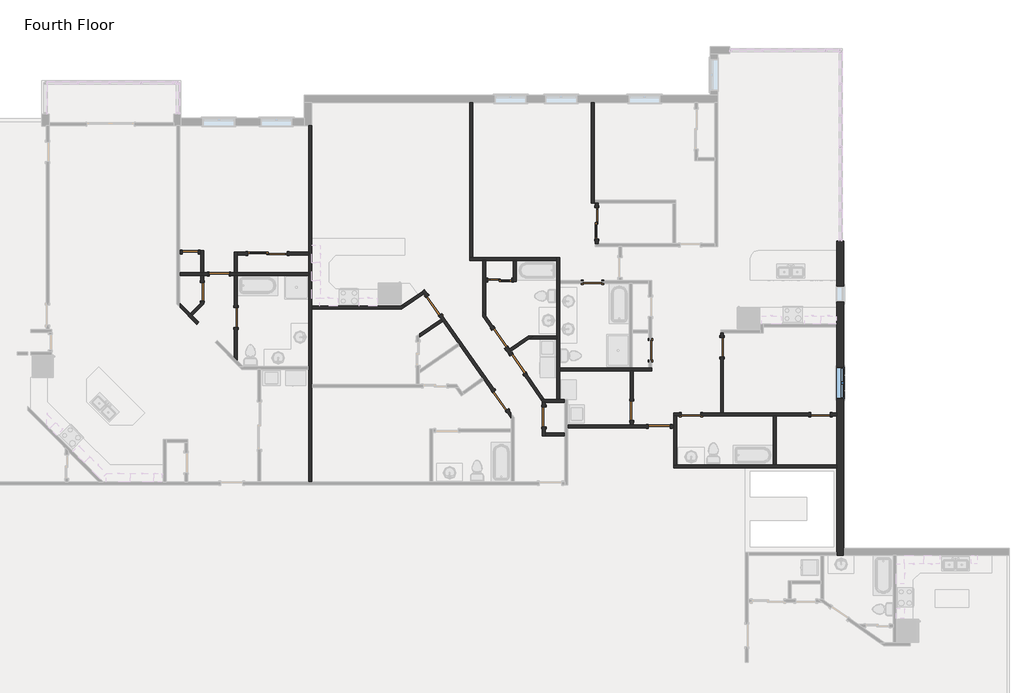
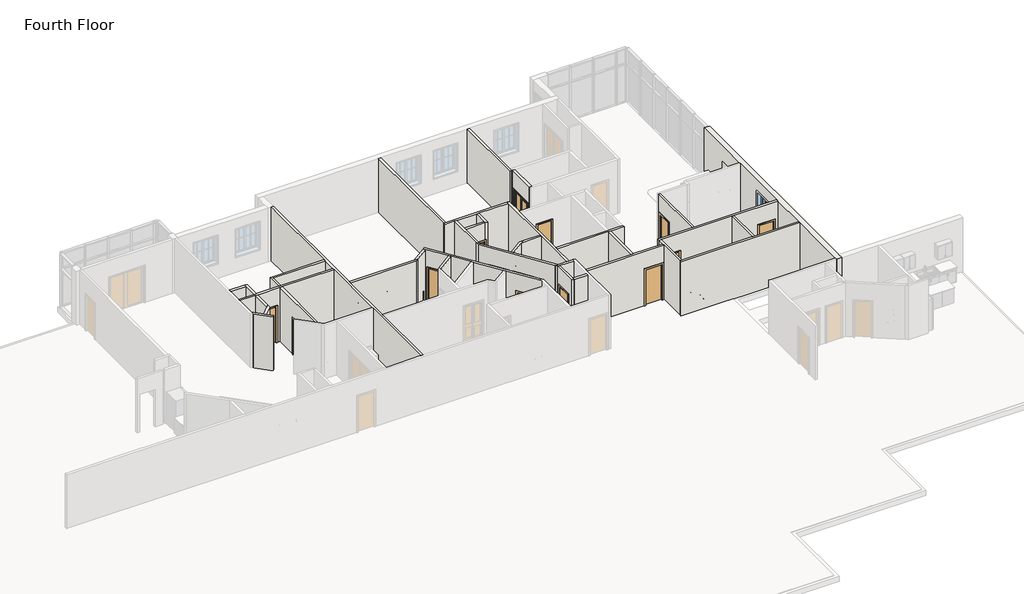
# One storey, part 11 of 17: 37 walls, 19 doors, 1 window.
"""IFC4 building model written with IfcOpenShell, lengths in millimetres."""

from ifc_helpers import new_model, si_unit, frame, origin, place, context, project, spatial, polyline, outline, extrude, faceted_brep, transform, mapped, element, save
from components import door_e2285e44, door_f2586ccf, door_2d0eeab4, door_d8f5dbb5, door_f2b275c1, door_825b8444, door_c29894e6, door_88c23cd7, door_900f836f, door_2e7ec8be, window_33528cc2

model = new_model("IFC4")

# Units and contexts
model_context = context("Model", 3, world=origin())
ifc_project = project(units=[si_unit("LENGTHUNIT", "METRE", prefix="MILLI")], contexts=[model_context])

# Site, building, storey
site = spatial("IfcSite", under=ifc_project)
building = spatial("IfcBuilding", under=site)
storey = spatial("IfcBuildingStorey", under=building, Name="Fourth Floor", Elevation=9144.0)

# Doors
placement = place(None, origin())
door_shape = door_e2285e44(model_context)
element("IfcDoor", 1, ObjectType="Single-Flush : 24\" x 80\"", at=placement, inside=storey, context=model_context, shape_type="MappedRepresentation", body=[
    mapped(door_shape, transform((32134.1490863, 11206.8738431, 9144.0), x_axis=(-1.0, 0.0, 0.0), y_axis=(0.0, -1.0, 0.0), z_axis=(0.0, 0.0, 1.0))),
])
door_2_shape = door_f2586ccf(model_context)
element("IfcDoor", 2, ObjectType="Single-Flush : 28\" x 80\"", at=placement, inside=storey, context=model_context, shape_type="MappedRepresentation", body=[
    mapped(door_2_shape, transform((32600.8503506, 9684.7566317, 9144.0), x_axis=(0.0, -1.0, 0.0), y_axis=(1.0, 0.0, 0.0), z_axis=(0.0, 0.0, 1.0))),
])
door_3_shape = door_2d0eeab4(model_context)
element("IfcDoor", 3, ObjectType="Single-Flush : 28\" x 80\"", at=placement, inside=storey, context=model_context, shape_type="MappedRepresentation", body=[
    mapped(door_3_shape, transform((47614.8260153, 10045.1667096, 9144.0), x_axis=(1.0, 0.0, 0.0), y_axis=(0.0, 1.0, 0.0), z_axis=(0.0, 0.0, 1.0))),
])
door_4_shape = door_d8f5dbb5(model_context)
element("IfcDoor", 4, ObjectType="Single-Flush : 30\" x 80\"", at=placement, inside=storey, context=model_context, shape_type="MappedRepresentation", body=[
    mapped(door_4_shape, transform((45750.4941402, 4857.5393477, 9144.0), x_axis=(0.0, 1.0, 0.0), y_axis=(-1.0, 0.0, 0.0), z_axis=(0.0, 0.0, 1.0))),
])
element("IfcDoor", 5, ObjectType="Single-Flush : 30\" x 80\"", at=placement, inside=storey, context=model_context, shape_type="MappedRepresentation", body=[
    mapped(door_4_shape, transform((51410.1982354, 4944.5386142, 9144.0), x_axis=(-1.0, 0.0, 0.0), y_axis=(0.0, -1.0, 0.0), z_axis=(0.0, 0.0, 1.0))),
])
element("IfcDoor", 6, ObjectType="Single-Flush : 30\" x 80\"", at=placement, inside=storey, context=model_context, shape_type="MappedRepresentation", body=[
    mapped(door_4_shape, transform((49850.4788879, 7420.455328, 9144.0), x_axis=(0.0, -1.0, 0.0), y_axis=(1.0, 0.0, 0.0), z_axis=(0.0, 0.0, 1.0))),
])
door_5_shape = door_f2b275c1(model_context)
element("IfcDoor", 7, ObjectType="Single-Flush : 30\" x 80\"", at=placement, inside=storey, context=model_context, shape_type="MappedRepresentation", body=[
    mapped(door_5_shape, transform((33248.5503506, 10357.9910099, 9144.0), x_axis=(-1.0, 0.0, 0.0), y_axis=(0.0, -1.0, 0.0), z_axis=(0.0, 0.0, 1.0))),
])
element("IfcDoor", 8, ObjectType="Single-Flush : 30\" x 80\"", at=placement, inside=storey, context=model_context, shape_type="MappedRepresentation", body=[
    mapped(door_5_shape, transform((33896.2503506, 8681.5910099, 9144.0), x_axis=(0.0, 1.0, 0.0), y_axis=(-1.0, 0.0, 0.0), z_axis=(0.0, 0.0, 1.0))),
])
element("IfcDoor", 9, ObjectType="Single-Flush : 30\" x 80\"", at=placement, inside=storey, context=model_context, shape_type="MappedRepresentation", body=[
    mapped(door_5_shape, transform((49133.9272963, 5096.9386142, 9144.0), x_axis=(0.0, -1.0, 0.0), y_axis=(1.0, 0.0, 0.0), z_axis=(0.0, 0.0, 1.0))),
])
element("IfcDoor", 10, ObjectType="Single-Flush : 30\" x 80\"", at=placement, inside=storey, context=model_context, shape_type="MappedRepresentation", body=[
    mapped(door_5_shape, transform((52607.3485135, 7538.9439464, 9144.0), x_axis=(0.0, 1.0, 0.0), y_axis=(-1.0, 0.0, 0.0), z_axis=(0.0, 0.0, 1.0))),
])
element("IfcDoor", 11, ObjectType="Single-Flush : 30\" x 80\"", at=placement, inside=storey, context=model_context, shape_type="MappedRepresentation", body=[
    mapped(door_5_shape, transform((56399.0962704, 4944.5386142, 9144.0), x_axis=(1.0, 0.0, 0.0), y_axis=(0.0, 1.0, 0.0), z_axis=(0.0, 0.0, 1.0))),
])
door_6_shape = door_825b8444(model_context)
element("IfcDoor", 12, ObjectType="Single-Flush : 34\" x 80\"", at=placement, inside=storey, context=model_context, shape_type="MappedRepresentation", body=[
    mapped(door_6_shape, transform((44075.379577, 5485.5706082, 9144.0), x_axis=(0.5735764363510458, -0.8191520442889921, 0.0), y_axis=(0.8191520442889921, 0.5735764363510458, 0.0), z_axis=(0.0, 0.0, 1.0))),
])
element("IfcDoor", 13, ObjectType="Single-Flush : 34\" x 80\"", at=placement, inside=storey, context=model_context, shape_type="MappedRepresentation", body=[
    mapped(door_6_shape, transform((44748.5781815, 6887.1795824, 9144.0), x_axis=(-0.5735764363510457, 0.819152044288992, 0.0), y_axis=(-0.819152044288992, -0.5735764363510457, 0.0), z_axis=(0.0, 0.0, 1.0))),
])
door_7_shape = door_c29894e6(model_context)
element("IfcDoor", 14, ObjectType="Single-Flush : 34\" x 80\"", at=placement, inside=storey, context=model_context, shape_type="MappedRepresentation", body=[
    mapped(door_7_shape, transform((41510.2711658, 9148.9250727, 9144.0), x_axis=(-0.5735764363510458, 0.8191520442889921, 0.0), y_axis=(-0.8191520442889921, -0.5735764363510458, 0.0), z_axis=(0.0, 0.0, 1.0))),
])
element("IfcDoor", 15, ObjectType="Single-Flush : 34\" x 80\"", at=placement, inside=storey, context=model_context, shape_type="MappedRepresentation", body=[
    mapped(door_7_shape, transform((44049.2737903, 7885.8897548, 9144.0), x_axis=(0.5735764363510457, -0.819152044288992, 0.0), y_axis=(0.819152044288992, 0.5735764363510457, 0.0), z_axis=(0.0, 0.0, 1.0))),
])
element("IfcDoor", 16, ObjectType="Single-Flush : 34\" x 80\"", at=placement, inside=storey, context=model_context, shape_type="MappedRepresentation", body=[
    mapped(door_7_shape, transform((50190.9982354, 4487.3386142, 9144.0), x_axis=(1.0, 0.0, 0.0), y_axis=(0.0, 1.0, 0.0), z_axis=(0.0, 0.0, 1.0))),
])
door_8_shape = door_88c23cd7(model_context)
element("IfcDoor", 17, ObjectType="Sliding-Closet : 36\" x 80\"", at=placement, inside=storey, context=model_context, shape_type="MappedRepresentation", body=[
    mapped(door_8_shape, transform((44050.8019535, 10258.3378349, 9144.0), x_axis=(-1.0, 0.0, 0.0), y_axis=(0.0, -1.0, 0.0), z_axis=(0.0, 0.0, 1.0))),
])
door_9_shape = door_900f836f(model_context)
element("IfcDoor", 18, ObjectType="Sliding-Closet : 48\" x 80\"", at=placement, inside=storey, context=model_context, shape_type="MappedRepresentation", body=[
    mapped(door_9_shape, transform((47915.2940143, 12314.1601128, 9144.0), x_axis=(0.0, 1.0, 0.0), y_axis=(-1.0, 0.0, 0.0), z_axis=(0.0, 0.0, 1.0))),
])
door_10_shape = door_2e7ec8be(model_context)
element("IfcDoor", 19, ObjectType="Sliding-Closet : 60\" x 80\"", at=placement, inside=storey, context=model_context, shape_type="MappedRepresentation", body=[
    mapped(door_10_shape, transform((35115.4503506, 11022.7238431, 9144.0), x_axis=(1.0, 0.0, 0.0), y_axis=(0.0, 1.0, 0.0), z_axis=(0.0, 0.0, 1.0))),
])

# Walls
element("IfcWall", 20, ObjectType="Exterior - Brick on Wood Stud", at=placement, inside=storey, context=model_context, shape_type="Brep", body=[
    faceted_brep([(57019.8087704, 11632.2044819, 9144.0), (57019.8087704, 8425.9167096, 9144.0), (57019.8087704, 8311.6167096, 9144.0), (57019.8087704, 5001.6886142, 9144.0), (57019.8087704, 4887.3886142, 9144.0), (57019.8087704, 3002.5544819, 9144.0), (57019.8087704, 2888.2544819, 9144.0), (57019.8087704, -370.8512558, 9144.0), (57019.8087704, -485.1512558, 9144.0), (57019.8087704, -485.1512558, 12192.0), (57019.8087704, -370.8512558, 12192.0), (57019.8087704, 2888.2544819, 12192.0), (57019.8087704, 3002.5544819, 12192.0), (57019.8087704, 4887.3886142, 12192.0), (57019.8087704, 5001.6886142, 12192.0), (57019.8087704, 8311.6167096, 12192.0), (57019.8087704, 8425.9167096, 12192.0), (57019.8087704, 11632.2044819, 12192.0), (57019.8087704, 5554.1386142, 11582.4), (57019.8087704, 5554.1386142, 10058.4), (57019.8087704, 6773.3386142, 10058.4), (57019.8087704, 6773.3386142, 11582.4), (57019.8087704, 9283.1667096, 11277.6), (57019.8087704, 9283.1667096, 10058.4), (57019.8087704, 9892.7667096, 10058.4), (57019.8087704, 9892.7667096, 11277.6), (57302.3837704, 11632.2044819, 9144.0), (57302.3837704, 11632.2044819, 12192.0), (57302.3837704, -202.5762558, 12192.0), (57302.3837704, -485.1512558, 12192.0), (57302.3837704, -485.1512558, 9144.0), (57302.3837704, -202.5762558, 9144.0), (57302.3837704, 5554.1386142, 11582.4), (57302.3837704, 6773.3386142, 11582.4), (57302.3837704, 6773.3386142, 10058.4), (57302.3837704, 5554.1386142, 10058.4), (57302.3837704, 9283.1667096, 11277.6), (57302.3837704, 9892.7667096, 11277.6), (57302.3837704, 9892.7667096, 10058.4), (57302.3837704, 9283.1667096, 10058.4)], [[[0, 1, 2, 3, 4, 5, 6, 7, 8, 9, 10, 11, 12, 13, 14, 15, 16, 17], [18, 19, 20, 21], [22, 23, 24, 25]], [[26, 27, 28, 29, 30, 31], [32, 33, 34, 35], [36, 37, 38, 39]], [[8, 7, 6, 5, 4, 3, 2, 1, 0, 26, 31, 30]], [[17, 16, 15, 14, 13, 12, 11, 10, 9, 29, 28, 27]], [[0, 17, 27, 26]], [[19, 18, 32, 35]], [[20, 19, 35, 34]], [[21, 20, 34, 33]], [[18, 21, 33, 32]], [[23, 22, 36, 39]], [[24, 23, 39, 38]], [[25, 24, 38, 37]], [[22, 25, 37, 36]], [[9, 8, 30, 29]]]),
])
element("IfcWall", 21, ObjectType="Interior - 4 1/2\" Partition", at=placement, inside=storey, context=model_context, shape_type="Brep", body=[
    faceted_brep([(57019.8087704, 3002.5544819, 9144.0), (54695.8146836, 3002.5544819, 9144.0), (54581.5146836, 3002.5544819, 9144.0), (50857.7482354, 3002.5544819, 9144.0), (50743.4482354, 3002.5544819, 9144.0), (50743.4482354, 3002.5544819, 12192.0), (50857.7482354, 3002.5544819, 12192.0), (54581.5146836, 3002.5544819, 12192.0), (54695.8146836, 3002.5544819, 12192.0), (57019.8087704, 3002.5544819, 12192.0), (57019.8087704, 2888.2544819, 9144.0), (57019.8087704, 2888.2544819, 12192.0), (50743.4482354, 2888.2544819, 12192.0), (50743.4482354, 2888.2544819, 9144.0)], [[[0, 1, 2, 3, 4, 5, 6, 7, 8, 9]], [[10, 11, 12, 13]], [[4, 3, 2, 1, 0, 10, 13]], [[9, 8, 7, 6, 5, 12, 11]], [[5, 4, 13, 12]], [[0, 9, 11, 10]]]),
])
element("IfcWall", 22, ObjectType="Interior - 4 1/2\" Partition", at=placement, inside=storey, context=model_context, shape_type="Brep", body=[
    faceted_brep([(50857.7482354, 3002.5544819, 9144.0), (50857.7482354, 4887.3886142, 9144.0), (50857.7482354, 4887.3886142, 12192.0), (50857.7482354, 3002.5544819, 12192.0), (50743.4482354, 3002.5544819, 9144.0), (50743.4482354, 3002.5544819, 12192.0), (50743.4482354, 4430.1886142, 12192.0), (50743.4482354, 4544.4886142, 12192.0), (50743.4482354, 4887.3886142, 12192.0), (50743.4482354, 4887.3886142, 9144.0), (50743.4482354, 4544.4886142, 9144.0), (50743.4482354, 4430.1886142, 9144.0)], [[[0, 1, 2, 3]], [[4, 5, 6, 7, 8, 9, 10, 11]], [[1, 0, 4, 11, 10, 9]], [[3, 2, 8, 7, 6, 5]], [[2, 1, 9, 8]], [[0, 3, 5, 4]]]),
])
element("IfcWall", 23, ObjectType="Interior - 4 1/2\" Partition", at=placement, inside=storey, context=model_context, shape_type="Brep", body=[
    faceted_brep([(50743.4482354, 4544.4886142, 9144.0), (50622.7982354, 4544.4886142, 9144.0), (50622.7982354, 4544.4886142, 11176.0), (49759.1982354, 4544.4886142, 11176.0), (49759.1982354, 4544.4886142, 9144.0), (49191.0772963, 4544.4886142, 9144.0), (49076.7772963, 4544.4886142, 9144.0), (46668.7626872, 4544.4886142, 9144.0), (46668.7626872, 4544.4886142, 12192.0), (49076.7772963, 4544.4886142, 12192.0), (49191.0772963, 4544.4886142, 12192.0), (50743.4482354, 4544.4886142, 12192.0), (50622.7982354, 4430.1886142, 11176.0), (50622.7982354, 4430.1886142, 9144.0), (50743.4482354, 4430.1886142, 9144.0), (50743.4482354, 4430.1886142, 12192.0), (46668.7626872, 4430.1886142, 12192.0), (46668.7626872, 4430.1886142, 9144.0), (49759.1982354, 4430.1886142, 9144.0), (49759.1982354, 4430.1886142, 11176.0)], [[[0, 1, 2, 3, 4, 5, 6, 7, 8, 9, 10, 11]], [[12, 13, 14, 15, 16, 17, 18, 19]], [[18, 17, 7, 6, 5, 4]], [[14, 13, 1, 0]], [[11, 10, 9, 8, 16, 15]], [[2, 1, 13, 12]], [[3, 2, 12, 19]], [[4, 3, 19, 18]], [[8, 7, 17, 16]], [[0, 11, 15, 14]]]),
])
element("IfcWall", 24, ObjectType="Interior - 4 1/2\" Partition", at=placement, inside=storey, context=model_context, shape_type="Brep", body=[
    faceted_brep([(46554.4626872, 5524.2893477, 9144.0), (46352.4352525, 5524.2893477, 9144.0), (46238.1352525, 5524.2893477, 9144.0), (45772.6514653, 5524.2893477, 9144.0), (45633.1169298, 5524.2893477, 9144.0), (45633.1169298, 5524.2893477, 12192.0), (45772.6514653, 5524.2893477, 12192.0), (46238.1352525, 5524.2893477, 12192.0), (46352.4352525, 5524.2893477, 12192.0), (46554.4626872, 5524.2893477, 12192.0), (46554.4626872, 5409.9893477, 9144.0), (46554.4626872, 5409.9893477, 12192.0), (45807.6441402, 5409.9893477, 12192.0), (45713.1506514, 5409.9893477, 12192.0), (45713.1506514, 5409.9893477, 9144.0), (45807.6441402, 5409.9893477, 9144.0), (45693.3441402, 5438.2759773, 9144.0), (45693.3441402, 5438.2759773, 12192.0)], [[[0, 1, 2, 3, 4, 5, 6, 7, 8, 9]], [[10, 11, 12, 13, 14, 15]], [[4, 3, 2, 1, 0, 10, 15, 14, 16]], [[9, 8, 7, 6, 5, 17, 13, 12, 11]], [[5, 4, 16, 14, 13, 17]], [[0, 9, 11, 10]]]),
])
element("IfcWall", 25, ObjectType="Interior - 4 1/2\" Partition", at=placement, inside=storey, context=model_context, shape_type="Brep", body=[
    faceted_brep([(46352.4352525, 5524.2893477, 9144.0), (46352.4352525, 6635.2167096, 9144.0), (46352.4352525, 6749.5167096, 9144.0), (46352.4352525, 9988.0167096, 9144.0), (46352.4352525, 10102.3167096, 9144.0), (46352.4352525, 11001.2878349, 9144.0), (46352.4352525, 11001.2878349, 12192.0), (46352.4352525, 10102.3167096, 12192.0), (46352.4352525, 9988.0167096, 12192.0), (46352.4352525, 6749.5167096, 12192.0), (46352.4352525, 6635.2167096, 12192.0), (46352.4352525, 5524.2893477, 12192.0), (46238.1352525, 5524.2893477, 9144.0), (46238.1352525, 5524.2893477, 12192.0), (46238.1352525, 7864.8634145, 12192.0), (46238.1352525, 7979.1634145, 12192.0), (46238.1352525, 10886.9878349, 12192.0), (46238.1352525, 11001.2878349, 12192.0), (46238.1352525, 11001.2878349, 9144.0), (46238.1352525, 10886.9878349, 9144.0), (46238.1352525, 7979.1634145, 9144.0), (46238.1352525, 7864.8634145, 9144.0)], [[[0, 1, 2, 3, 4, 5, 6, 7, 8, 9, 10, 11]], [[12, 13, 14, 15, 16, 17, 18, 19, 20, 21]], [[5, 4, 3, 2, 1, 0, 12, 21, 20, 19, 18]], [[11, 10, 9, 8, 7, 6, 17, 16, 15, 14, 13]], [[6, 5, 18, 17]], [[0, 11, 13, 12]]]),
])
element("IfcWall", 26, ObjectType="Interior - 4 1/2\" Partition", at=placement, inside=storey, context=model_context, shape_type="Brep", body=[
    faceted_brep([(46238.1352525, 11001.2878349, 9144.0), (43004.4928001, 11001.2878349, 9144.0), (42890.1928001, 11001.2878349, 9144.0), (42890.1928001, 11001.2878349, 12192.0), (43004.4928001, 11001.2878349, 12192.0), (46238.1352525, 11001.2878349, 12192.0), (46238.1352525, 10886.9878349, 9144.0), (46238.1352525, 10886.9878349, 12192.0), (44678.4640263, 10886.9878349, 12192.0), (44564.1640263, 10886.9878349, 12192.0), (43512.0398807, 10886.9878349, 12192.0), (43397.7398807, 10886.9878349, 12192.0), (42890.1928001, 10886.9878349, 12192.0), (42890.1928001, 10886.9878349, 9144.0), (43397.7398807, 10886.9878349, 9144.0), (43512.0398807, 10886.9878349, 9144.0), (44564.1640263, 10886.9878349, 9144.0), (44678.4640263, 10886.9878349, 9144.0)], [[[0, 1, 2, 3, 4, 5]], [[6, 7, 8, 9, 10, 11, 12, 13, 14, 15, 16, 17]], [[2, 1, 0, 6, 17, 16, 15, 14, 13]], [[5, 4, 3, 12, 11, 10, 9, 8, 7]], [[3, 2, 13, 12]], [[0, 5, 7, 6]]]),
])
element("IfcWall", 27, ObjectType="Interior - 4 1/2\" Partition", at=placement, inside=storey, context=model_context, shape_type="SweptSolid", body=[
    extrude(outline(polyline([(43004.4928001, 16964.1039258), (43004.4928001, 11001.2878349), (42890.1928001, 11001.2878349), (42890.1928001, 16964.1039258), (43004.4928001, 16964.1039258)])), frame((0.0, 0.0, 9144.0), z_axis=(0.0, 0.0, 1.0), x_axis=(1.0, 0.0, 0.0)), (0.0, 0.0, 1.0), 3048.0),
])
element("IfcWall", 28, ObjectType="Interior - 4 1/2\" Partition", at=placement, inside=storey, context=model_context, shape_type="Brep", body=[
    faceted_brep([(47578.7440143, 16964.1039258, 9144.0), (47578.7440143, 13091.2456698, 9144.0), (47578.7440143, 13091.2456698, 12192.0), (47578.7440143, 16964.1039258, 12192.0), (47693.0440143, 16964.1039258, 9144.0), (47693.0440143, 16964.1039258, 12192.0), (47693.0440143, 13205.5456698, 12192.0), (47693.0440143, 13091.2456698, 12192.0), (47693.0440143, 13091.2456698, 9144.0), (47693.0440143, 13205.5456698, 9144.0)], [[[0, 1, 2, 3]], [[4, 5, 6, 7, 8, 9]], [[1, 0, 4, 9, 8]], [[3, 2, 7, 6, 5]], [[2, 1, 8, 7]], [[0, 3, 5, 4]]]),
])
element("IfcWall", 29, ObjectType="Interior - 4 1/2\" Partition", at=placement, inside=storey, context=model_context, shape_type="SweptSolid", body=[
    extrude(outline(polyline([(13091.2456698, 9144.0), (12923.7601128, 9144.0), (12923.7601128, 11176.0), (11704.5601128, 11176.0), (11704.5601128, 9144.0), (11537.0745559, 9144.0), (11537.0745559, 12192.0), (13091.2456698, 12192.0), (13091.2456698, 9144.0)])), frame((47731.1440143, 0.0, 0.0), z_axis=(1.0, 0.0, 0.0), x_axis=(0.0, 1.0, 0.0)), (0.0, 0.0, 1.0), 114.3),
])
element("IfcWall", 30, ObjectType="Interior - 4 1/2\" Partition", at=placement, inside=storey, context=model_context, shape_type="Brep", body=[
    faceted_brep([(46352.4352525, 6635.2167096, 9144.0), (49076.7772963, 6635.2167096, 9144.0), (49191.0772963, 6635.2167096, 9144.0), (49907.6288879, 6635.2167096, 9144.0), (49907.6288879, 6635.2167096, 12192.0), (49191.0772963, 6635.2167096, 12192.0), (49076.7772963, 6635.2167096, 12192.0), (46352.4352525, 6635.2167096, 12192.0), (46352.4352525, 6749.5167096, 9144.0), (46352.4352525, 6749.5167096, 12192.0), (49032.3272963, 6749.5167096, 12192.0), (49146.6272963, 6749.5167096, 12192.0), (49793.3288879, 6749.5167096, 12192.0), (49907.6288879, 6749.5167096, 12192.0), (49907.6288879, 6749.5167096, 9144.0), (49793.3288879, 6749.5167096, 9144.0), (49146.6272963, 6749.5167096, 9144.0), (49032.3272963, 6749.5167096, 9144.0)], [[[0, 1, 2, 3, 4, 5, 6, 7]], [[8, 9, 10, 11, 12, 13, 14, 15, 16, 17]], [[3, 2, 1, 0, 8, 17, 16, 15, 14]], [[7, 6, 5, 4, 13, 12, 11, 10, 9]], [[4, 3, 14, 13]], [[0, 7, 9, 8]]]),
])
element("IfcWall", 31, ObjectType="Interior - 4 1/2\" Partition", at=placement, inside=storey, context=model_context, shape_type="SweptSolid", body=[
    extrude(outline(polyline([(4715.9386142, 11176.0), (4715.9386142, 9144.0), (4544.4886142, 9144.0), (4544.4886142, 12192.0), (6635.2167096, 12192.0), (6635.2167096, 9144.0), (5477.9386142, 9144.0), (5477.9386142, 11176.0), (4715.9386142, 11176.0)])), frame((49076.7772963, 0.0, 0.0), z_axis=(1.0, 0.0, 0.0), x_axis=(0.0, 1.0, 0.0)), (0.0, 0.0, 1.0), 114.3),
])
element("IfcWall", 32, ObjectType="Interior - 4 1/2\" Partition", at=placement, inside=storey, context=model_context, shape_type="Brep", body=[
    faceted_brep([(57019.8087704, 5001.6886142, 9144.0), (56780.0962704, 5001.6886142, 9144.0), (56780.0962704, 5001.6886142, 11176.0), (56018.0962704, 5001.6886142, 11176.0), (56018.0962704, 5001.6886142, 9144.0), (52664.4985135, 5001.6886142, 9144.0), (52550.1985135, 5001.6886142, 9144.0), (51791.1982354, 5001.6886142, 9144.0), (51791.1982354, 5001.6886142, 11176.0), (51029.1982354, 5001.6886142, 11176.0), (51029.1982354, 5001.6886142, 9144.0), (50743.4482354, 5001.6886142, 9144.0), (50743.4482354, 5001.6886142, 12192.0), (52550.1985135, 5001.6886142, 12192.0), (52664.4985135, 5001.6886142, 12192.0), (57019.8087704, 5001.6886142, 12192.0), (56780.0962704, 4887.3886142, 11176.0), (56780.0962704, 4887.3886142, 9144.0), (57019.8087704, 4887.3886142, 9144.0), (57019.8087704, 4887.3886142, 12192.0), (54695.8146836, 4887.3886142, 12192.0), (54581.5146836, 4887.3886142, 12192.0), (50857.7482354, 4887.3886142, 12192.0), (50743.4482354, 4887.3886142, 12192.0), (50743.4482354, 4887.3886142, 9144.0), (50857.7482354, 4887.3886142, 9144.0), (51029.1982354, 4887.3886142, 9144.0), (51029.1982354, 4887.3886142, 11176.0), (51791.1982354, 4887.3886142, 11176.0), (51791.1982354, 4887.3886142, 9144.0), (54581.5146836, 4887.3886142, 9144.0), (54695.8146836, 4887.3886142, 9144.0), (56018.0962704, 4887.3886142, 9144.0), (56018.0962704, 4887.3886142, 11176.0)], [[[0, 1, 2, 3, 4, 5, 6, 7, 8, 9, 10, 11, 12, 13, 14, 15]], [[16, 17, 18, 19, 20, 21, 22, 23, 24, 25, 26, 27, 28, 29, 30, 31, 32, 33]], [[11, 10, 26, 25, 24]], [[18, 17, 1, 0]], [[32, 31, 30, 29, 7, 6, 5, 4]], [[15, 14, 13, 12, 23, 22, 21, 20, 19]], [[27, 26, 10, 9]], [[28, 27, 9, 8]], [[29, 28, 8, 7]], [[2, 1, 17, 16]], [[3, 2, 16, 33]], [[4, 3, 33, 32]], [[12, 11, 24, 23]], [[0, 15, 19, 18]]]),
])
element("IfcWall", 33, ObjectType="Interior - 4 1/2\" Partition", at=placement, inside=storey, context=model_context, shape_type="SweptSolid", body=[
    extrude(outline(polyline([(54581.5146836, 3002.5544819), (54581.5146836, 4887.3886142), (54695.8146836, 4887.3886142), (54695.8146836, 3002.5544819), (54581.5146836, 3002.5544819)])), frame((0.0, 0.0, 9144.0), z_axis=(0.0, 0.0, 1.0), x_axis=(1.0, 0.0, 0.0)), (0.0, 0.0, 1.0), 3048.0),
])
element("IfcWall", 34, ObjectType="Interior - 4 1/2\" Partition", at=placement, inside=storey, context=model_context, shape_type="SweptSolid", body=[
    extrude(outline(polyline([(8091.3939464, 9144.0), (7919.9439464, 9144.0), (7919.9439464, 11176.0), (7157.9439464, 11176.0), (7157.9439464, 9144.0), (5001.6886142, 9144.0), (5001.6886142, 12192.0), (8091.3939464, 12192.0), (8091.3939464, 9144.0)])), frame((52550.1985135, 0.0, 0.0), z_axis=(1.0, 0.0, 0.0), x_axis=(0.0, 1.0, 0.0)), (0.0, 0.0, 1.0), 114.3),
])
element("IfcWall", 35, ObjectType="Interior - 4 1/2\" Partition", at=placement, inside=storey, context=model_context, shape_type="Brep", body=[
    faceted_brep([(36816.4178001, 2359.3591714, 9144.0), (36816.4178001, 5991.110079, 9144.0), (36816.4178001, 6105.410079, 9144.0), (36816.4178001, 9005.4410099, 9144.0), (36816.4178001, 9119.7410099, 9144.0), (36816.4178001, 16077.0865339, 9144.0), (36816.4178001, 16077.0865339, 12192.0), (36816.4178001, 9119.7410099, 12192.0), (36816.4178001, 9005.4410099, 12192.0), (36816.4178001, 6105.410079, 12192.0), (36816.4178001, 5991.110079, 12192.0), (36816.4178001, 2359.3591714, 12192.0), (36702.1178001, 2359.3591714, 9144.0), (36702.1178001, 2359.3591714, 12192.0), (36702.1178001, 6691.8559423, 12192.0), (36702.1178001, 6806.1559423, 12192.0), (36702.1178001, 10300.8410099, 12192.0), (36702.1178001, 10415.1410099, 12192.0), (36702.1178001, 11092.5738431, 12192.0), (36702.1178001, 11206.8738431, 12192.0), (36702.1178001, 16077.0865339, 12192.0), (36702.1178001, 16077.0865339, 9144.0), (36702.1178001, 11206.8738431, 9144.0), (36702.1178001, 11092.5738431, 9144.0), (36702.1178001, 10415.1410099, 9144.0), (36702.1178001, 10300.8410099, 9144.0), (36702.1178001, 6806.1559423, 9144.0), (36702.1178001, 6691.8559423, 9144.0)], [[[0, 1, 2, 3, 4, 5, 6, 7, 8, 9, 10, 11]], [[12, 13, 14, 15, 16, 17, 18, 19, 20, 21, 22, 23, 24, 25, 26, 27]], [[5, 4, 3, 2, 1, 0, 12, 27, 26, 25, 24, 23, 22, 21]], [[11, 10, 9, 8, 7, 6, 20, 19, 18, 17, 16, 15, 14, 13]], [[0, 11, 13, 12]], [[6, 5, 21, 20]]]),
])
element("IfcWall", 36, ObjectType="Interior - 4 1/2\" Partition", at=placement, inside=storey, context=model_context, shape_type="Brep", body=[
    faceted_brep([(41309.4153999, 9535.4148188, 11176.0), (41309.4153999, 9535.4148188, 9144.0), (41154.070698, 9757.2700452, 9144.0), (41154.070698, 9757.2700452, 12192.0), (44491.9949591, 4990.220165, 12192.0), (44491.9949591, 4990.220165, 9144.0), (44369.8644215, 5164.6406488, 9144.0), (44369.8644215, 5164.6406488, 11176.0), (43874.5238111, 5872.0603542, 11176.0), (43874.5238111, 5872.0603542, 9144.0), (41804.7560103, 8827.9951134, 9144.0), (41804.7560103, 8827.9951134, 11176.0), (41060.4416193, 9691.7102585, 9144.0), (41126.001406, 9598.0811798, 9144.0), (41215.7863212, 9469.8550321, 9144.0), (41215.7863212, 9469.8550321, 11176.0), (41711.1269316, 8762.4353267, 11176.0), (41711.1269316, 8762.4353267, 9144.0), (41800.9118469, 8634.209179, 9144.0), (41866.4716335, 8540.5801003, 9144.0), (42452.1089123, 7704.203388, 9144.0), (42517.668699, 7610.5743093, 9144.0), (43383.893802, 6373.476655, 9144.0), (43449.4535887, 6279.8475763, 9144.0), (43780.8947324, 5806.5005676, 9144.0), (43780.8947324, 5806.5005676, 11176.0), (44276.2353429, 5099.0808621, 11176.0), (44276.2353429, 5099.0808621, 9144.0), (44491.9949591, 4790.9441963, 9144.0), (44491.9949591, 4790.9441963, 12192.0), (43449.4535887, 6279.8475763, 12192.0), (43383.893802, 6373.476655, 12192.0), (42517.668699, 7610.5743093, 12192.0), (42452.1089123, 7704.203388, 12192.0), (41866.4716335, 8540.5801003, 12192.0), (41800.9118469, 8634.209179, 12192.0), (41126.001406, 9598.0811798, 12192.0), (41060.4416193, 9691.7102585, 12192.0)], [[[0, 1, 2, 3, 4, 5, 6, 7, 8, 9, 10, 11]], [[12, 13, 14, 15, 16, 17, 18, 19, 20, 21, 22, 23, 24, 25, 26, 27, 28, 29, 30, 31, 32, 33, 34, 35, 36, 37]], [[28, 27, 6, 5]], [[10, 9, 24, 23, 22, 21, 20, 19, 18, 17]], [[2, 1, 14, 13, 12]], [[4, 3, 37, 36, 35, 34, 33, 32, 31, 30, 29]], [[7, 6, 27, 26]], [[8, 7, 26, 25]], [[9, 8, 25, 24]], [[15, 14, 1, 0]], [[16, 15, 0, 11]], [[17, 16, 11, 10]], [[3, 2, 12, 37]], [[5, 4, 29, 28]]]),
])
element("IfcWall", 37, ObjectType="Interior - 4 1/2\" Partition", at=placement, inside=storey, context=model_context, shape_type="SweptSolid", body=[
    extrude(outline(polyline([(41866.4716335, 8540.5801003), (40960.0847694, 7905.9211855), (40960.0847694, 8045.455721), (41800.9118469, 8634.209179), (41866.4716335, 8540.5801003)])), frame((0.0, 0.0, 9144.0), z_axis=(0.0, 0.0, 1.0), x_axis=(1.0, 0.0, 0.0)), (0.0, 0.0, 1.0), 3048.0),
])
element("IfcWall", 38, ObjectType="Interior - 4 1/2\" Partition", at=placement, inside=storey, context=model_context, shape_type="SweptSolid", body=[
    extrude(outline(polyline([(45807.6441402, 4238.9591714), (46554.4626872, 4238.9591714), (46554.4626872, 4124.6591714), (45807.6441402, 4124.6591714), (45807.6441402, 4238.9591714)])), frame((0.0, 0.0, 9144.0), z_axis=(0.0, 0.0, 1.0), x_axis=(1.0, 0.0, 0.0)), (0.0, 0.0, 1.0), 3048.0),
])
element("IfcWall", 39, ObjectType="Interior - 4 1/2\" Partition", at=placement, inside=storey, context=model_context, shape_type="Brep", body=[
    faceted_brep([(45807.6441402, 5238.5393477, 11176.0), (45807.6441402, 5238.5393477, 9144.0), (45807.6441402, 5409.9893477, 9144.0), (45807.6441402, 5409.9893477, 12192.0), (45807.6441402, 4238.9591714, 12192.0), (45807.6441402, 4124.6591714, 12192.0), (45807.6441402, 4124.6591714, 9144.0), (45807.6441402, 4238.9591714, 9144.0), (45807.6441402, 4476.5393477, 9144.0), (45807.6441402, 4476.5393477, 11176.0), (45693.3441402, 5438.2759773, 9144.0), (45693.3441402, 5238.5393477, 9144.0), (45693.3441402, 5238.5393477, 11176.0), (45693.3441402, 4476.5393477, 11176.0), (45693.3441402, 4476.5393477, 9144.0), (45693.3441402, 4124.6591714, 9144.0), (45693.3441402, 4124.6591714, 12192.0), (45693.3441402, 5438.2759773, 12192.0), (45713.1506514, 5409.9893477, 9144.0), (45713.1506514, 5409.9893477, 12192.0)], [[[0, 1, 2, 3, 4, 5, 6, 7, 8, 9]], [[10, 11, 12, 13, 14, 15, 16, 17]], [[2, 1, 11, 10, 18]], [[8, 7, 6, 15, 14]], [[5, 4, 3, 19, 17, 16]], [[12, 11, 1, 0]], [[13, 12, 0, 9]], [[14, 13, 9, 8]], [[6, 5, 16, 15]], [[3, 2, 18, 19]], [[18, 10, 17, 19]]]),
])
element("IfcWall", 40, ObjectType="Interior - 4 1/2\" Partition", at=placement, inside=storey, context=model_context, shape_type="Brep", body=[
    faceted_brep([(44547.7224156, 7273.6693285, 11176.0), (44547.7224156, 7273.6693285, 9144.0), (44478.5204186, 7372.5000226, 9144.0), (44412.9606319, 7466.1291013, 9144.0), (44343.7586349, 7564.9597954, 9144.0), (44343.7586349, 7564.9597954, 11176.0), (43848.4180244, 8272.3795009, 11176.0), (43848.4180244, 8272.3795009, 9144.0), (43512.0398807, 8752.7772764, 9144.0), (43397.7398807, 8916.0145936, 9144.0), (43397.7398807, 8916.0145936, 12192.0), (43512.0398807, 8752.7772764, 12192.0), (44412.9606319, 7466.1291013, 12192.0), (44478.5204186, 7372.5000226, 12192.0), (45772.6514653, 5524.2893477, 12192.0), (45772.6514653, 5524.2893477, 9144.0), (45043.0630261, 6566.249623, 9144.0), (45043.0630261, 6566.249623, 11176.0), (44250.1295562, 7499.4000087, 9144.0), (44454.093337, 7208.1095418, 9144.0), (44454.093337, 7208.1095418, 11176.0), (44949.4339474, 6500.6898363, 11176.0), (44949.4339474, 6500.6898363, 9144.0), (45633.1169298, 5524.2893477, 9144.0), (45633.1169298, 5524.2893477, 12192.0), (43397.7398807, 8716.7386248, 12192.0), (43397.7398807, 8716.7386248, 9144.0), (43754.7889458, 8206.8197142, 9144.0), (43754.7889458, 8206.8197142, 11176.0), (44250.1295562, 7499.4000087, 11176.0)], [[[0, 1, 2, 3, 4, 5, 6, 7, 8, 9, 10, 11, 12, 13, 14, 15, 16, 17]], [[18, 19, 20, 21, 22, 23, 24, 25, 26, 27, 28, 29]], [[27, 26, 9, 8, 7]], [[16, 15, 23, 22]], [[4, 3, 2, 1, 19, 18]], [[14, 13, 12, 11, 10, 25, 24]], [[5, 4, 18, 29]], [[6, 5, 29, 28]], [[7, 6, 28, 27]], [[20, 19, 1, 0]], [[21, 20, 0, 17]], [[22, 21, 17, 16]], [[10, 9, 26, 25]], [[15, 14, 24, 23]]]),
])
element("IfcWall", 41, ObjectType="Interior - 4 1/2\" Partition", at=placement, inside=storey, context=model_context, shape_type="Brep", body=[
    faceted_brep([(43512.0398807, 8752.7772764, 9144.0), (43512.0398807, 10074.1878349, 9144.0), (43512.0398807, 10188.4878349, 9144.0), (43512.0398807, 10886.9878349, 9144.0), (43512.0398807, 10886.9878349, 12192.0), (43512.0398807, 10188.4878349, 12192.0), (43512.0398807, 10074.1878349, 12192.0), (43512.0398807, 8752.7772764, 12192.0), (43397.7398807, 8916.0145936, 9144.0), (43397.7398807, 8916.0145936, 12192.0), (43397.7398807, 10886.9878349, 12192.0), (43397.7398807, 10886.9878349, 9144.0)], [[[0, 1, 2, 3, 4, 5, 6, 7]], [[8, 9, 10, 11]], [[3, 2, 1, 0, 8, 11]], [[7, 6, 5, 4, 10, 9]], [[0, 7, 9, 8]], [[4, 3, 11, 10]]]),
])
element("IfcWall", 42, ObjectType="Interior - 4 1/2\" Partition", at=placement, inside=storey, context=model_context, shape_type="Brep", body=[
    faceted_brep([(44478.5204186, 7372.5000226, 9144.0), (45181.6882153, 7864.8634145, 9144.0), (45344.9255324, 7979.1634145, 9144.0), (45344.9255324, 7979.1634145, 12192.0), (45181.6882153, 7864.8634145, 12192.0), (44478.5204186, 7372.5000226, 12192.0), (44412.9606319, 7466.1291013, 9144.0), (44412.9606319, 7466.1291013, 12192.0), (45145.6495637, 7979.1634145, 12192.0), (45145.6495637, 7979.1634145, 9144.0)], [[[0, 1, 2, 3, 4, 5]], [[6, 7, 8, 9]], [[2, 1, 0, 6, 9]], [[5, 4, 3, 8, 7]], [[3, 2, 9, 8]], [[0, 5, 7, 6]]]),
])
element("IfcWall", 43, ObjectType="Interior - 4 1/2\" Partition", at=placement, inside=storey, context=model_context, shape_type="SweptSolid", body=[
    extrude(outline(polyline([(46238.1352525, 7864.8634145), (45181.6882153, 7864.8634145), (45344.9255324, 7979.1634145), (46238.1352525, 7979.1634145), (46238.1352525, 7864.8634145)])), frame((0.0, 0.0, 9144.0), z_axis=(0.0, 0.0, 1.0), x_axis=(1.0, 0.0, 0.0)), (0.0, 0.0, 1.0), 3048.0),
])
element("IfcWall", 44, ObjectType="Interior - 4 1/2\" Partition", at=placement, inside=storey, context=model_context, shape_type="Brep", body=[
    faceted_brep([(36816.4178001, 9005.4410099, 9144.0), (40279.6235286, 9005.4410099, 9144.0), (40279.6235286, 9005.4410099, 12192.0), (36816.4178001, 9005.4410099, 12192.0), (36816.4178001, 9119.7410099, 9144.0), (36816.4178001, 9119.7410099, 12192.0), (40243.584877, 9119.7410099, 12192.0), (40442.8608458, 9119.7410099, 12192.0), (40442.8608458, 9119.7410099, 9144.0), (40243.584877, 9119.7410099, 9144.0)], [[[0, 1, 2, 3]], [[4, 5, 6, 7, 8, 9]], [[1, 0, 4, 9, 8]], [[3, 2, 7, 6, 5]], [[2, 1, 8, 7]], [[0, 3, 5, 4]]]),
])
element("IfcWall", 45, ObjectType="Interior - 4 1/2\" Partition", at=placement, inside=storey, context=model_context, shape_type="SweptSolid", body=[
    extrude(outline(polyline([(41126.001406, 9598.0811798), (40442.8608458, 9119.7410099), (40243.584877, 9119.7410099), (41060.4416193, 9691.7102585), (41126.001406, 9598.0811798)])), frame((0.0, 0.0, 9144.0), z_axis=(0.0, 0.0, 1.0), x_axis=(1.0, 0.0, 0.0)), (0.0, 0.0, 1.0), 3048.0),
])
element("IfcWall", 46, ObjectType="Interior - 4 1/2\" Partition", at=placement, inside=storey, context=model_context, shape_type="Brep", body=[
    faceted_brep([(32214.8764443, 8760.7604203, 9144.0), (32658.0003506, 9203.8843266, 9144.0), (32658.0003506, 9203.8843266, 12192.0), (32214.8764443, 8760.7604203, 12192.0), (32134.0541392, 8841.5827254, 12192.0), (32543.7003506, 9251.2289368, 12192.0), (32658.0003506, 9365.5289368, 12192.0), (32658.0003506, 9365.5289368, 11176.0), (32621.6280455, 9329.1566317, 11176.0), (32621.6280455, 9329.1566317, 9144.0), (32543.7003506, 9251.2289368, 9144.0), (32134.0541392, 8841.5827254, 9144.0), (32658.0003506, 9329.1566317, 9144.0), (32658.0003506, 9329.1566317, 11176.0)], [[[0, 1, 2, 3]], [[4, 5, 6, 7, 8, 9, 10, 11]], [[1, 0, 11, 10, 9, 12]], [[3, 2, 6, 5, 4]], [[8, 13, 12, 9]], [[13, 8, 7]], [[2, 1, 12, 13, 7, 6]], [[0, 3, 4, 11]]]),
])
element("IfcWall", 47, ObjectType="Interior - 4 1/2\" Partition", at=placement, inside=storey, context=model_context, shape_type="Brep", body=[
    faceted_brep([(32658.0003506, 10300.8410099, 12192.0), (32658.0003506, 9365.5289368, 12192.0), (32658.0003506, 9365.5289368, 11176.0), (32658.0003506, 10040.3566317, 11176.0), (32658.0003506, 10040.3566317, 9144.0), (32658.0003506, 10300.8410099, 9144.0), (32543.7003506, 9251.2289368, 12192.0), (32543.7003506, 10300.8410099, 12192.0), (32543.7003506, 10300.8410099, 9144.0), (32543.7003506, 10040.3566317, 9144.0), (32543.7003506, 10040.3566317, 11176.0), (32543.7003506, 9329.1566317, 11176.0), (32543.7003506, 9329.1566317, 9144.0), (32543.7003506, 9251.2289368, 9144.0), (32621.6280455, 9329.1566317, 9144.0), (32621.6280455, 9329.1566317, 11176.0)], [[[0, 1, 2, 3, 4, 5]], [[6, 7, 8, 9, 10, 11, 12, 13]], [[13, 12, 14]], [[8, 5, 4, 9]], [[1, 0, 7, 6]], [[11, 15, 14, 12]], [[15, 11, 10, 3, 2]], [[3, 10, 9, 4]], [[0, 5, 8, 7]], [[1, 6, 13, 14, 15, 2]]]),
])
element("IfcWall", 48, ObjectType="Interior - 4 1/2\" Partition", at=placement, inside=storey, context=model_context, shape_type="Brep", body=[
    faceted_brep([(31724.597822, 10300.8410099, 9144.0), (32543.7003506, 10300.8410099, 9144.0), (32658.0003506, 10300.8410099, 9144.0), (32867.5503506, 10300.8410099, 9144.0), (32867.5503506, 10300.8410099, 11176.0), (33629.5503506, 10300.8410099, 11176.0), (33629.5503506, 10300.8410099, 9144.0), (33839.1003506, 10300.8410099, 9144.0), (33953.4003506, 10300.8410099, 9144.0), (36702.1178001, 10300.8410099, 9144.0), (36702.1178001, 10300.8410099, 12192.0), (33953.4003506, 10300.8410099, 12192.0), (33839.1003506, 10300.8410099, 12192.0), (32658.0003506, 10300.8410099, 12192.0), (32543.7003506, 10300.8410099, 12192.0), (31724.597822, 10300.8410099, 12192.0), (32867.5503506, 10415.1410099, 11176.0), (32867.5503506, 10415.1410099, 9144.0), (32658.0003506, 10415.1410099, 9144.0), (32543.7003506, 10415.1410099, 9144.0), (31724.597822, 10415.1410099, 9144.0), (31724.597822, 10415.1410099, 12192.0), (32543.7003506, 10415.1410099, 12192.0), (32658.0003506, 10415.1410099, 12192.0), (33839.1003506, 10415.1410099, 12192.0), (33953.4003506, 10415.1410099, 12192.0), (36702.1178001, 10415.1410099, 12192.0), (36702.1178001, 10415.1410099, 9144.0), (33953.4003506, 10415.1410099, 9144.0), (33839.1003506, 10415.1410099, 9144.0), (33629.5503506, 10415.1410099, 9144.0), (33629.5503506, 10415.1410099, 11176.0)], [[[0, 1, 2, 3, 4, 5, 6, 7, 8, 9, 10, 11, 12, 13, 14, 15]], [[16, 17, 18, 19, 20, 21, 22, 23, 24, 25, 26, 27, 28, 29, 30, 31]], [[20, 19, 18, 17, 3, 2, 1, 0]], [[30, 29, 28, 27, 9, 8, 7, 6]], [[15, 14, 13, 12, 11, 10, 26, 25, 24, 23, 22, 21]], [[4, 3, 17, 16]], [[5, 4, 16, 31]], [[6, 5, 31, 30]], [[0, 15, 21, 20]], [[10, 9, 27, 26]]]),
])
element("IfcWall", 49, ObjectType="Interior - 4 1/2\" Partition", at=placement, inside=storey, context=model_context, shape_type="Brep", body=[
    faceted_brep([(32658.0003506, 10415.1410099, 9144.0), (32658.0003506, 11264.0238431, 9144.0), (32658.0003506, 11264.0238431, 12192.0), (32658.0003506, 10415.1410099, 12192.0), (32543.7003506, 10415.1410099, 9144.0), (32543.7003506, 10415.1410099, 12192.0), (32543.7003506, 11149.7238431, 12192.0), (32543.7003506, 11264.0238431, 12192.0), (32543.7003506, 11264.0238431, 9144.0), (32543.7003506, 11149.7238431, 9144.0)], [[[0, 1, 2, 3]], [[4, 5, 6, 7, 8, 9]], [[1, 0, 4, 9, 8]], [[3, 2, 7, 6, 5]], [[2, 1, 8, 7]], [[0, 3, 5, 4]]]),
])
element("IfcWall", 50, ObjectType="Interior - 4 1/2\" Partition", at=placement, inside=storey, context=model_context, shape_type="SweptSolid", body=[
    extrude(outline(polyline([(9144.0, 31724.597822), (9144.0, 31829.3490863), (11176.0, 31829.3490863), (11176.0, 32438.9490863), (9144.0, 32438.9490863), (9144.0, 32543.7003506), (12192.0, 32543.7003506), (12192.0, 31724.597822), (9144.0, 31724.597822)])), frame((0.0, 11149.7238431, 0.0), z_axis=(0.0, 1.0, 0.0), x_axis=(0.0, 0.0, 1.0)), (0.0, 0.0, 1.0), 114.3),
])
element("IfcWall", 51, ObjectType="Interior - 4 1/2\" Partition", at=placement, inside=storey, context=model_context, shape_type="Brep", body=[
    faceted_brep([(33953.4003506, 10415.1410099, 9144.0), (33953.4003506, 11092.5738431, 9144.0), (33953.4003506, 11206.8738431, 9144.0), (33953.4003506, 11206.8738431, 12192.0), (33953.4003506, 11092.5738431, 12192.0), (33953.4003506, 10415.1410099, 12192.0), (33839.1003506, 10415.1410099, 9144.0), (33839.1003506, 10415.1410099, 12192.0), (33839.1003506, 11206.8738431, 12192.0), (33839.1003506, 11206.8738431, 9144.0)], [[[0, 1, 2, 3, 4, 5]], [[6, 7, 8, 9]], [[2, 1, 0, 6, 9]], [[5, 4, 3, 8, 7]], [[3, 2, 9, 8]], [[0, 5, 7, 6]]]),
])
element("IfcWall", 52, ObjectType="Interior - 4 1/2\" Partition", at=placement, inside=storey, context=model_context, shape_type="SweptSolid", body=[
    extrude(outline(polyline([(11176.0, 35877.4503506), (9144.0, 35877.4503506), (9144.0, 36702.1178001), (12192.0, 36702.1178001), (12192.0, 33953.4003506), (9144.0, 33953.4003506), (9144.0, 34353.4503506), (11176.0, 34353.4503506), (11176.0, 35877.4503506)])), frame((0.0, 11092.5738431, 0.0), z_axis=(0.0, 1.0, 0.0), x_axis=(0.0, 0.0, 1.0)), (0.0, 0.0, 1.0), 114.3),
])
element("IfcWall", 53, ObjectType="Interior - 4 1/2\" Partition", at=placement, inside=storey, context=model_context, shape_type="Brep", body=[
    faceted_brep([(33839.1003506, 10300.8410099, 9144.0), (33839.1003506, 9062.5910099, 9144.0), (33839.1003506, 9062.5910099, 11176.0), (33839.1003506, 8300.5910099, 11176.0), (33839.1003506, 8300.5910099, 9144.0), (33839.1003506, 7136.5365139, 9144.0), (33839.1003506, 7136.5365139, 12192.0), (33839.1003506, 10300.8410099, 12192.0), (33953.4003506, 9062.5910099, 11176.0), (33953.4003506, 9062.5910099, 9144.0), (33953.4003506, 10300.8410099, 9144.0), (33953.4003506, 10300.8410099, 12192.0), (33953.4003506, 7022.2365139, 12192.0), (33953.4003506, 7022.2365139, 9144.0), (33953.4003506, 8300.5910099, 9144.0), (33953.4003506, 8300.5910099, 11176.0)], [[[0, 1, 2, 3, 4, 5, 6, 7]], [[8, 9, 10, 11, 12, 13, 14, 15]], [[14, 13, 5, 4]], [[10, 9, 1, 0]], [[7, 6, 12, 11]], [[2, 1, 9, 8]], [[3, 2, 8, 15]], [[4, 3, 15, 14]], [[6, 5, 13, 12]], [[0, 7, 11, 10]]]),
])
element("IfcWall", 54, ObjectType="Interior - 4 1/2\" Partition", at=placement, inside=storey, context=model_context, shape_type="Brep", body=[
    faceted_brep([(32473.1503015, 8502.4865631, 9144.0), (32214.8764443, 8760.7604203, 9144.0), (32134.0541392, 8841.5827254, 9144.0), (31724.597822, 9251.0390425, 9144.0), (31724.597822, 9251.0390425, 12192.0), (32134.0541392, 8841.5827254, 12192.0), (32214.8764443, 8760.7604203, 12192.0), (32473.1503015, 8502.4865631, 12192.0), (32392.3279964, 8421.664258, 9144.0), (32392.3279964, 8421.664258, 12192.0), (31724.597822, 9089.3944324, 12192.0), (31724.597822, 9089.3944324, 9144.0)], [[[0, 1, 2, 3, 4, 5, 6, 7]], [[8, 9, 10, 11]], [[3, 2, 1, 0, 8, 11]], [[7, 6, 5, 4, 10, 9]], [[0, 7, 9, 8]], [[4, 3, 11, 10]]]),
])
element("IfcWall", 55, ObjectType="Interior - 4 1/2\" Partition", at=placement, inside=storey, context=model_context, shape_type="Brep", body=[
    faceted_brep([(44564.1640263, 10886.9878349, 9144.0), (44564.1640263, 10188.4878349, 9144.0), (44564.1640263, 10074.1878349, 9144.0), (44564.1640263, 10074.1878349, 12192.0), (44564.1640263, 10188.4878349, 12192.0), (44564.1640263, 10886.9878349, 12192.0), (44678.4640263, 10886.9878349, 9144.0), (44678.4640263, 10886.9878349, 12192.0), (44678.4640263, 10074.1878349, 12192.0), (44678.4640263, 10074.1878349, 9144.0)], [[[0, 1, 2, 3, 4, 5]], [[6, 7, 8, 9]], [[2, 1, 0, 6, 9]], [[5, 4, 3, 8, 7]], [[3, 2, 9, 8]], [[0, 5, 7, 6]]]),
])
element("IfcWall", 56, ObjectType="Interior - 4 1/2\" Partition", at=placement, inside=storey, context=model_context, shape_type="SweptSolid", body=[
    extrude(outline(polyline([(9144.0, 43512.0398807), (9144.0, 43593.6019535), (11176.0, 43593.6019535), (11176.0, 44508.0019535), (9144.0, 44508.0019535), (9144.0, 44564.1640263), (12192.0, 44564.1640263), (12192.0, 43512.0398807), (9144.0, 43512.0398807)])), frame((0.0, 10074.1878349, 0.0), z_axis=(0.0, 1.0, 0.0), x_axis=(0.0, 0.0, 1.0)), (0.0, 0.0, 1.0), 114.3),
])

# Window
window_shape = window_33528cc2(model_context)
element("IfcWindow", 57, ObjectType="Window-Casement-Double : 48\" x 60\"", at=placement, inside=storey, context=model_context, shape_type="MappedRepresentation", body=[
    mapped(window_shape, transform((57161.0962704, 6163.7386142, 9144.0), x_axis=(0.0, -1.0, 0.0), y_axis=(1.0, 0.0, 0.0), z_axis=(0.0, 0.0, 1.0))),
])

save(model, "model.ifc")
